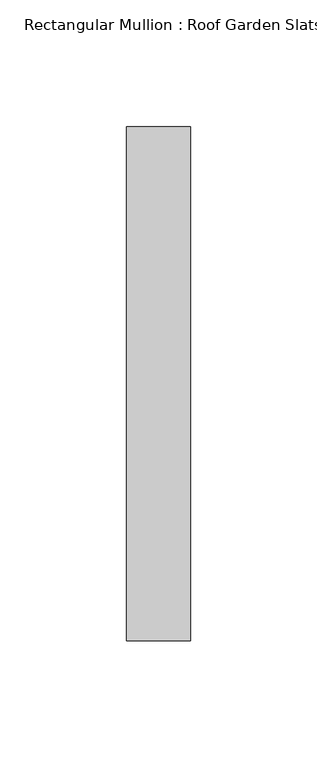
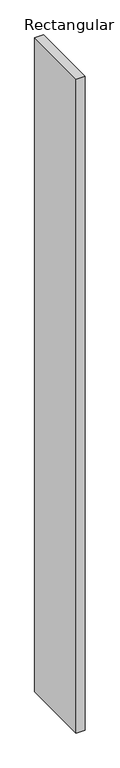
"""IFC4 building model written with IfcOpenShell, lengths in millimetres: member geometry, Rectangular Mullion : Roof Garden Slats."""

from ifc_helpers import new_model, si_unit, frame, origin, place, context, project, spatial, polyline, outline, extrude, source, transform, mapped, element, save


def rectangular_mullion_roof_garden_slats_564c72bc(model_context):
    return source(origin(), model_context, "Body", "SweptSolid", [
        extrude(outline(polyline([(12.7, 139.7), (12.7, -63.5), (-12.7, -63.5), (-12.7, 139.7), (12.7, 139.7)])), frame((0.0, 0.0, -1957.2562483), z_axis=(0.0, 0.0, 1.0), x_axis=(1.0, 0.0, 0.0)), (0.0, 0.0, 1.0), 1957.2562483),
    ])


if __name__ == "__main__":
    model = new_model("IFC4")
    model_context = context("Model", 3, world=origin())
    ifc_project = project(units=[si_unit("LENGTHUNIT", "METRE", prefix="MILLI")], contexts=[model_context])
    site = spatial("IfcSite", under=ifc_project)
    building = spatial("IfcBuilding", under=site)
    placement = place(None, origin())
    rectangular_mullion_roof_garden_slats_shape = rectangular_mullion_roof_garden_slats_564c72bc(model_context)
    element("IfcMember", 1, ObjectType="Rectangular Mullion : Roof Garden Slats", at=placement, inside=building, context=model_context, shape_type="MappedRepresentation", body=[
        mapped(rectangular_mullion_roof_garden_slats_shape, transform((0.0, 0.0, 0.0), x_axis=(1.0, 0.0, 0.0), y_axis=(0.0, 1.0, 0.0), z_axis=(0.0, 0.0, 1.0))),
    ])
    save(model, "model.ifc")
